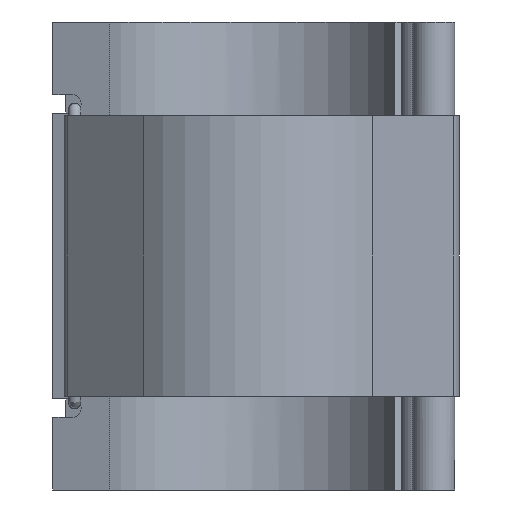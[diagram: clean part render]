
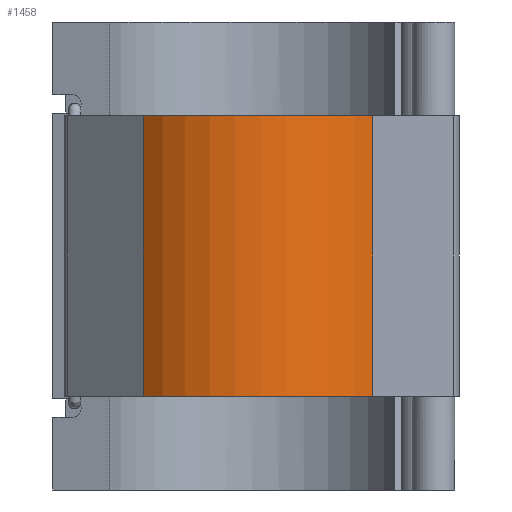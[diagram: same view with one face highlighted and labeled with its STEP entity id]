
A CAD part, front view. The second image highlights one B-rep face of the part: STEP entity #1458.
In plain terms, the highlighted cylindrical face has radius 58.761 mm (diameter 117.523 mm), a partial arc.
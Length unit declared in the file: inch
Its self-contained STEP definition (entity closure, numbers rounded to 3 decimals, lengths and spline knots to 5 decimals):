
#125=FACE_OUTER_BOUND('',#211,.T.);
#211=EDGE_LOOP('',(#1212,#1213,#1214,#1215));
#284=CIRCLE('',#1532,2.31344);
#293=CIRCLE('',#1542,2.31344);
#453=LINE('',#2434,#575);
#454=LINE('',#2436,#576);
#575=VECTOR('',#1949,0.3937);
#576=VECTOR('',#1952,0.3937);
#623=VERTEX_POINT('',#2183);
#624=VERTEX_POINT('',#2185);
#639=VERTEX_POINT('',#2217);
#640=VERTEX_POINT('',#2219);
#765=EDGE_CURVE('',#623,#624,#284,.T.);
#782=EDGE_CURVE('',#639,#640,#293,.T.);
#887=EDGE_CURVE('',#623,#640,#453,.T.);
#888=EDGE_CURVE('',#624,#639,#454,.T.);
#1212=ORIENTED_EDGE('',*,*,#887,.T.);
#1213=ORIENTED_EDGE('',*,*,#782,.F.);
#1214=ORIENTED_EDGE('',*,*,#888,.F.);
#1215=ORIENTED_EDGE('',*,*,#765,.F.);
#1397=CYLINDRICAL_SURFACE('',#1606,2.31344);
#1458=ADVANCED_FACE('',(#125),#1397,.T.);
#1532=AXIS2_PLACEMENT_3D('',#2186,#1719,#1720);
#1542=AXIS2_PLACEMENT_3D('',#2220,#1747,#1748);
#1606=AXIS2_PLACEMENT_3D('',#2435,#1950,#1951);
#1719=DIRECTION('center_axis',(0.,0.,-1.));
#1720=DIRECTION('ref_axis',(0.997,0.079,0.));
#1747=DIRECTION('center_axis',(0.,0.,1.));
#1748=DIRECTION('ref_axis',(0.997,0.079,0.));
#1949=DIRECTION('',(0.,0.,1.));
#1950=DIRECTION('center_axis',(0.,0.,1.));
#1951=DIRECTION('ref_axis',(0.997,0.079,0.));
#1952=DIRECTION('',(0.,0.,1.));
#2183=CARTESIAN_POINT('',(1.78235,-1.47487,-2.079));
#2185=CARTESIAN_POINT('',(-1.61386,-1.65755,-2.079));
#2186=CARTESIAN_POINT('Origin',(0.,0.,-2.079));
#2217=CARTESIAN_POINT('',(-1.61386,-1.65755,2.079));
#2219=CARTESIAN_POINT('',(1.78235,-1.47487,2.079));
#2220=CARTESIAN_POINT('Origin',(0.,0.,2.079));
#2434=CARTESIAN_POINT('',(1.78235,-1.47487,0.));
#2435=CARTESIAN_POINT('Origin',(0.,0.,0.));
#2436=CARTESIAN_POINT('',(-1.61386,-1.65755,0.));
